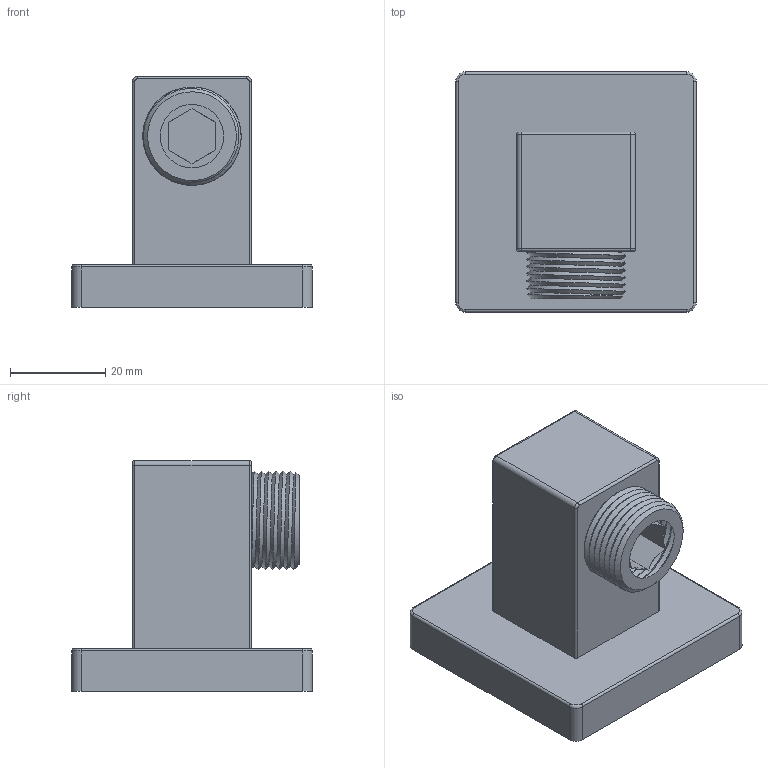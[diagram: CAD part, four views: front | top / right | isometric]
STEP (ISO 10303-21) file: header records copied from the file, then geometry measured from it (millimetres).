
FILE_DESCRIPTION(/* description */ (''),/* implementation_level */ '2;1');
FILE_NAME(/* name */ 'c:\worker\convert-fusion-r09\tmp\job-1\14\output\files\1cab23c0-85a0-4418-87ea-79b1183f44d0\c9cb826e-45f7-4640-ad0b-2d6b80585c02.zip.stp',/* time_stamp */ '2019-12-14T15:53:11+00:00',/* author */ (''),/* organization */ (''),/* preprocessor_version */ 'ST-DEVELOPER v18',/* originating_system */ 'Autodesk Translation Framework v8.12.0.6',/* authorisation */ '');
FILE_SCHEMA (('AUTOMOTIVE_DESIGN { 1 0 10303 214 3 1 1 }'));
Length unit declared in the file: millimetre
Products named in the file (1): !8870
Bounding box: 50.5 x 50.5 x 48.5 mm (x, y, z)
Volume: 49779.6 mm3; surface area: 12296.4 mm2
Topology: 2 solids, 2 shells, 49 faces, 118 edges, 74 vertices
Faces by surface type: plane 19, cylinder 18, bspline 6, torus 4, cone 2
Entity records: 1800 total; most frequent: CARTESIAN_POINT 653, ORIENTED_EDGE 236, DIRECTION 234, EDGE_CURVE 118, AXIS2_PLACEMENT_3D 90, VERTEX_POINT 74, LINE 54, VECTOR 54
